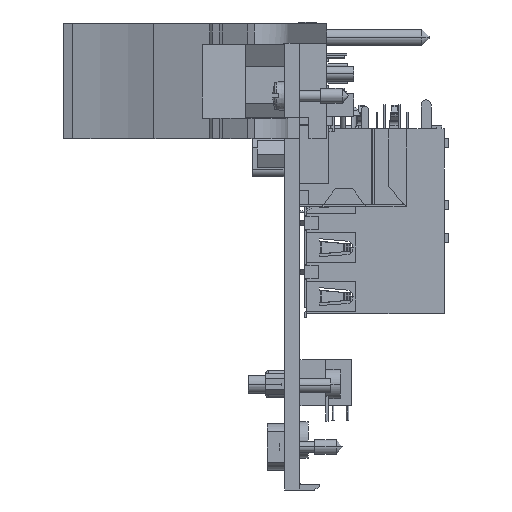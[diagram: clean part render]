
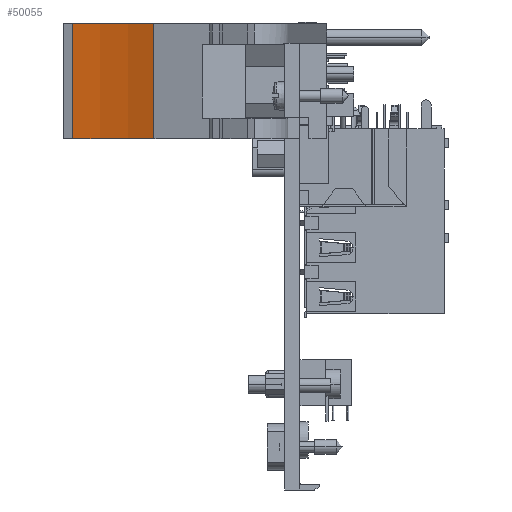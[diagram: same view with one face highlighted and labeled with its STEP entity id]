
A CAD part, front view. The second image highlights one B-rep face of the part: STEP entity #50055.
In plain terms, the highlighted cylindrical face has radius 51.46 mm (diameter 102.919 mm), a partial arc.
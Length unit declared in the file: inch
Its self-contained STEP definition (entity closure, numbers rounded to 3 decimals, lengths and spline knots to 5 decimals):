
#48696=CARTESIAN_POINT('',(-1.97633,-5.95079,-0.089));
#48697=DIRECTION('',(0.,0.,1.));
#48698=DIRECTION('',(0.435,0.9,0.));
#48699=AXIS2_PLACEMENT_3D('',#48696,#48697,#48698);
#49018=CARTESIAN_POINT('',(-1.97633,-5.95079,0.699));
#49019=DIRECTION('',(0.,0.,1.));
#49020=DIRECTION('',(0.435,0.9,0.));
#49021=AXIS2_PLACEMENT_3D('',#49018,#49019,#49020);
#49117=DIRECTION('',(0.,0.,1.));
#49118=VECTOR('',#49117,0.788);
#49119=CARTESIAN_POINT('',(-1.09503,-4.12655,-0.089));
#49120=LINE('',#49119,#49118);
#49133=DIRECTION('',(0.,0.,1.));
#49134=VECTOR('',#49133,0.788);
#49135=CARTESIAN_POINT('',(-1.653,-3.95079,-0.089));
#49136=LINE('',#49135,#49134);
#49446=CARTESIAN_POINT('',(-1.09503,-4.12655,-0.089));
#49447=CARTESIAN_POINT('',(-1.653,-3.95079,-0.089));
#49448=VERTEX_POINT('',#49446);
#49449=VERTEX_POINT('',#49447);
#49450=CARTESIAN_POINT('',(-1.09503,-4.12655,0.699));
#49451=CARTESIAN_POINT('',(-1.653,-3.95079,0.699));
#49452=VERTEX_POINT('',#49450);
#49453=VERTEX_POINT('',#49451);
#50044=CARTESIAN_POINT('',(-1.97633,-5.95079,0.699));
#50045=DIRECTION('',(0.,0.,1.));
#50046=DIRECTION('',(0.,1.,0.));
#50047=AXIS2_PLACEMENT_3D('',#50044,#50045,#50046);
#50048=CYLINDRICAL_SURFACE('',#50047,2.02597);
#50049=ORIENTED_EDGE('',*,*,#49549,.T.);
#50050=ORIENTED_EDGE('',*,*,#50035,.T.);
#50051=ORIENTED_EDGE('',*,*,#49874,.F.);
#50052=ORIENTED_EDGE('',*,*,#50016,.F.);
#50053=EDGE_LOOP('',(#50049,#50050,#50051,#50052));
#50054=FACE_OUTER_BOUND('',#50053,.F.);
#50055=ADVANCED_FACE('',(#50054),#50048,.F.);
#48700=CIRCLE('',#48699,2.02597);
#49022=CIRCLE('',#49021,2.02597);
#49549=EDGE_CURVE('',#49448,#49449,#48700,.T.);
#49874=EDGE_CURVE('',#49452,#49453,#49022,.T.);
#50016=EDGE_CURVE('',#49448,#49452,#49120,.T.);
#50035=EDGE_CURVE('',#49449,#49453,#49136,.T.);
